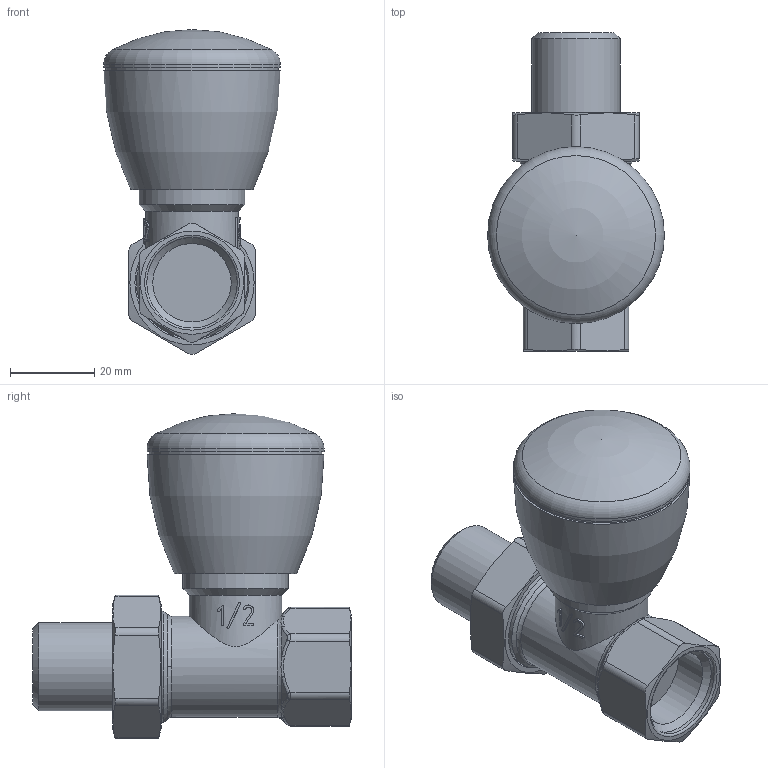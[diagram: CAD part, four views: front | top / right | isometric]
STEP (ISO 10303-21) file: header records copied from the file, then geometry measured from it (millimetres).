
FILE_DESCRIPTION(('STEP AP203'), '1');
FILE_NAME('VT.008.N.04', '2024-06-26T11:10:46', ('User'), ('Vesta'), 'C3D Converter', 'C3D Toolkit', '');
FILE_SCHEMA(('CONFIG_CONTROL_DESIGN'));
Length unit declared in the file: millimetre
Products named in the file (1): ВР.493176.006.000 СБ
Bounding box: 42 x 75.69 x 77.11 mm (x, y, z)
Volume: 80430.2 mm3; surface area: 14778.6 mm2
Topology: 1 solids, 1 shells, 168 faces, 433 edges, 278 vertices
Faces by surface type: plane 50, extrusion 42, cylinder 31, bspline 24, cone 14, torus 6, sphere 1
Full cylindrical faces by diameter (mm): 18.632 x1, 20.955 x1, 21.5 x2, 22 x1, 24 x1, 25 x1, 26.441 x1, 41 x1, 42 x1
Entity records: 10407 total; most frequent: CARTESIAN_POINT 6874, ORIENTED_EDGE 826, DIRECTION 495, EDGE_CURVE 413, VERTEX_POINT 279, B_SPLINE_CURVE_WITH_KNOTS 246, EDGE_LOOP 198, FACE_BOUND 178
